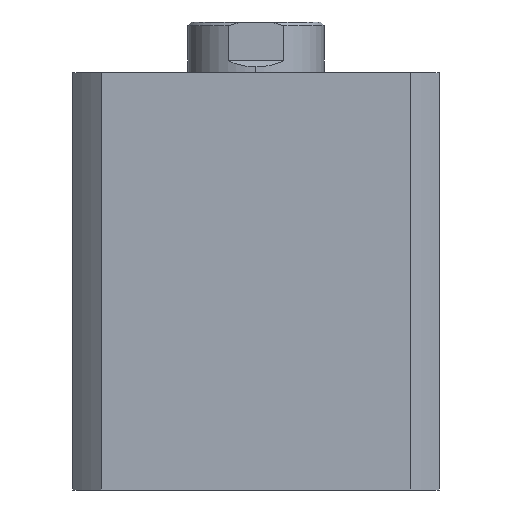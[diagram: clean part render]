
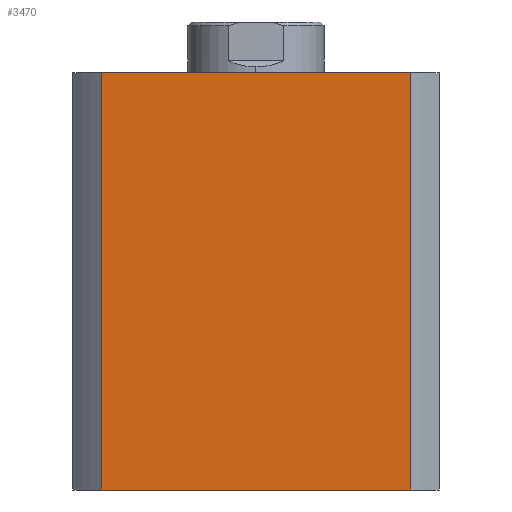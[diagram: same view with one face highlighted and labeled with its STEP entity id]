
A CAD part, left-side view. The second image highlights one B-rep face of the part: STEP entity #3470.
In plain terms, the highlighted planar face has unit normal (-1, 0, 0).
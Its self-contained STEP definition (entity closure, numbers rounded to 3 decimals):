
#226 = CARTESIAN_POINT ( 'NONE',  ( -47., 39.664, 0. ) ) ;
#368 = CARTESIAN_POINT ( 'NONE',  ( -47., 0., 107. ) ) ;
#373 = PLANE ( 'NONE',  #1172 ) ;
#376 = DIRECTION ( 'NONE',  ( 1., 0., 0. ) ) ;
#377 = DIRECTION ( 'NONE',  ( 0., 0., -1. ) ) ;
#1172 = AXIS2_PLACEMENT_3D ( 'NONE', #368, #376, #377 ) ;
#1587 = LINE ( 'NONE', #4514, #1589 ) ;
#1589 = VECTOR ( 'NONE', #4509, 1000. ) ;
#1627 = LINE ( 'NONE', #3086, #1633 ) ;
#1629 = LINE ( 'NONE', #3084, #1631 ) ;
#1631 = VECTOR ( 'NONE', #3077, 1000. ) ;
#1632 = LINE ( 'NONE', #3092, #1635 ) ;
#1633 = VECTOR ( 'NONE', #3091, 1000. ) ;
#1635 = VECTOR ( 'NONE', #3094, 1000. ) ;
#1845 = ORIENTED_EDGE ( 'NONE', *, *, #4058, .F. ) ;
#1874 = ORIENTED_EDGE ( 'NONE', *, *, #4057, .T. ) ;
#1876 = ORIENTED_EDGE ( 'NONE', *, *, #4056, .T. ) ;
#1953 = ORIENTED_EDGE ( 'NONE', *, *, #4023, .F. ) ;
#2112 = EDGE_LOOP ( 'NONE', ( #1874, #1845, #1953, #1876 ) ) ;
#2298 = VERTEX_POINT ( 'NONE', #226 ) ;
#2348 = VERTEX_POINT ( 'NONE', #3613 ) ;
#2861 = VERTEX_POINT ( 'NONE', #3747 ) ;
#2862 = VERTEX_POINT ( 'NONE', #3748 ) ;
#3077 = DIRECTION ( 'NONE',  ( 0., 0., -1. ) ) ;
#3084 = CARTESIAN_POINT ( 'NONE',  ( -47., 39.664, 107. ) ) ;
#3086 = CARTESIAN_POINT ( 'NONE',  ( -47., 0., 0. ) ) ;
#3091 = DIRECTION ( 'NONE',  ( 0., -1., 0. ) ) ;
#3092 = CARTESIAN_POINT ( 'NONE',  ( -47., -39.664, 107. ) ) ;
#3094 = DIRECTION ( 'NONE',  ( 0., 0., -1. ) ) ;
#3470 = ADVANCED_FACE ( 'NONE', ( #4856 ), #373, .F. ) ;
#3613 = CARTESIAN_POINT ( 'NONE',  ( -47., -39.664, 0. ) ) ;
#3747 = CARTESIAN_POINT ( 'NONE',  ( -47., -39.664, 107. ) ) ;
#3748 = CARTESIAN_POINT ( 'NONE',  ( -47., 39.664, 107. ) ) ;
#4023 = EDGE_CURVE ( 'NONE', #2862, #2861, #1587, .T. ) ;
#4056 = EDGE_CURVE ( 'NONE', #2862, #2298, #1629, .T. ) ;
#4057 = EDGE_CURVE ( 'NONE', #2298, #2348, #1627, .T. ) ;
#4058 = EDGE_CURVE ( 'NONE', #2861, #2348, #1632, .T. ) ;
#4509 = DIRECTION ( 'NONE',  ( 0., -1., 0. ) ) ;
#4514 = CARTESIAN_POINT ( 'NONE',  ( -47., 0., 107. ) ) ;
#4856 = FACE_OUTER_BOUND ( 'NONE', #2112, .T. ) ;
